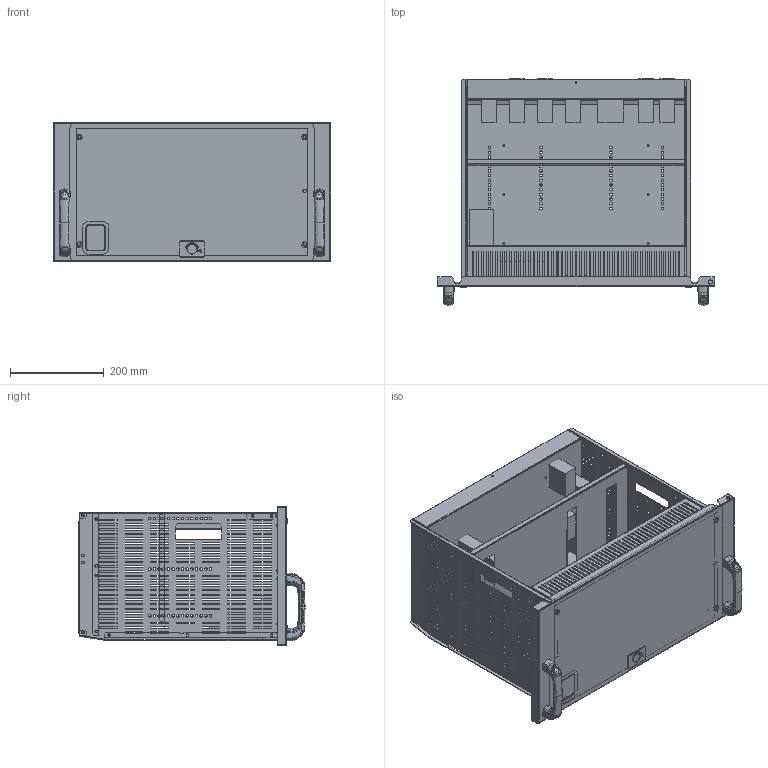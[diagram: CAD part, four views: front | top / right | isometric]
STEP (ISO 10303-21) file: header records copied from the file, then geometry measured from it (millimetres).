
FILE_DESCRIPTION(('CAx-IF Rec.Pracs.---Model Styling and Organization---1.2---2011-12-15','CAx-IF Rec.Pracs.---Geometric and Assembly Validation Properties---4.1---2014-06-16','CAx-IF Rec.Pracs.---PMI Polyline Presentation---2.0---2013-05-24'),'2;1');
FILE_NAME('6М1.stp','2021-05-05T11:49:00+03:00',(''),(''),'STEP Interface 4.4 by CT CoreTechnologie','3D_Evolution4.4 by CT CoreTechnologie','');
FILE_SCHEMA(('AUTOMOTIVE_DESIGN { 1 0 10303 214 1 1 1 1 }'));
Length unit declared in the file: millimetre
Products named in the file (33): 6Ì1; RB.1166.00.00.0 ÑÁ_-03; RB.1166.00.01.0_-03; RB.1166.00.02.0_¢ à 1; RB.1166.00.03.0_-00; RB.1166.00.04.0_-00; PF 7x14 RAMmcc 2.0_61; AC00C061_AC00C061; Ì6õ12-A5100231_straight; PF 3.5x7 RAMmcc 2.0_00; RB.1501.00.00.0 ÑÁ_-03; RB.1501.00.01.0_-03; M6 art.MGR-MKO-0625_2¬¬; ñèëîâûå áîëüøèå òîêè; 6-GOST 11371-78 (DIN 125) PA 6.6_6-GOST 11371-78 (DIN 125) PA 6.6; RB.1511.00.00.0_-03; M6x12 (A1100001)_stright; M6x20 GOST 17475-80 (DIN 965)_stright; 4.444.002(1); PR.DT477.120.02-poprawa; PR.DT477.120.01; 4.444.002(2); R5M2W3M1BR22_R5MW31BR22; RB.1506.00.00.0_-07; áëîêèðîâêà ìåõàíèçì; ìåõàíèçì; êíîïêà; RB.1356.00.00.0; RB.1505.00.00.0 ÑÁ_3; RB.1505.00.01.0_2; RB.1499.00.00.0 ÑÁ_-03; RB.1499.00.01.0_-03; ñèãíàëüíûå
Assembly tree (56 placements, depth 3):
  6Ì1
    RB.1166.00.00.0 ÑÁ_-03
      RB.1166.00.01.0_-03
      RB.1166.00.02.0_¢ à 1
      RB.1166.00.03.0_-00
      RB.1166.00.04.0_-00
      PF 7x14 RAMmcc 2.0_61
      AC00C061_AC00C061
      Ì6õ12-A5100231_straight
      PF 3.5x7 RAMmcc 2.0_00
    RB.1501.00.00.0 ÑÁ_-03
      RB.1501.00.01.0_-03
      M6 art.MGR-MKO-0625_2¬¬  x2
    ñèëîâûå áîëüøèå òîêè  x8
    6-GOST 11371-78 (DIN 125) PA 6.6_6-GOST 11371-78 (DIN 125) PA 6.6  x4
    RB.1511.00.00.0_-03
    M6x12 (A1100001)_stright  x4
    M6x20 GOST 17475-80 (DIN 965)_stright  x4
    4.444.002(1)
      PR.DT477.120.02-poprawa  x2
      PR.DT477.120.01
    4.444.002(2)
      PR.DT477.120.02-poprawa  x2
      PR.DT477.120.01
    R5M2W3M1BR22_R5MW31BR22
      RB.1506.00.00.0_-07
    áëîêèðîâêà ìåõàíèçì
    ìåõàíèçì
    êíîïêà
    RB.1356.00.00.0
    RB.1505.00.00.0 ÑÁ_3
      RB.1505.00.01.0_2
    RB.1499.00.00.0 ÑÁ_-03
      RB.1499.00.01.0_-03
      M6 art.MGR-MKO-0625_2¬¬  x3
    ñèãíàëüíûå
Bounding box: 594 x 483.5 x 297 mm (x, y, z)
Surface area: 2347480.5 mm2 (no closed solid volume)
Topology: 0 solids, 67 shells, 4292 faces, 11781 edges, 7548 vertices
Faces by surface type: plane 2398, cylinder 978, bspline 916
Entity records: 147079 total; most frequent: CARTESIAN_POINT 30482, ORIENTED_EDGE 18660, DIRECTION 17303, EDGE_CURVE 9330, VECTOR 6903, LINE 6903, VERTEX_POINT 6096, AXIS2_PLACEMENT_3D 5200
